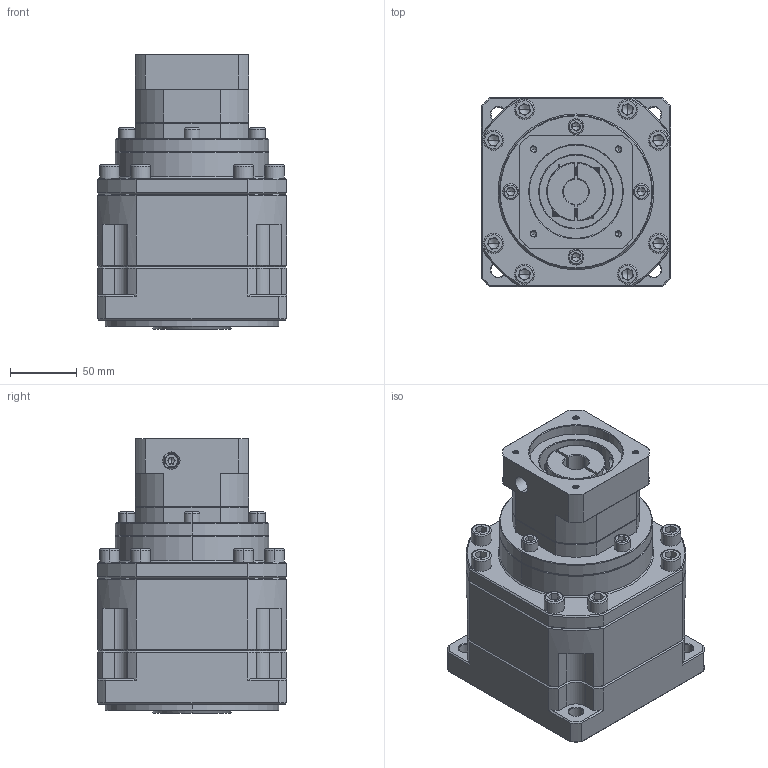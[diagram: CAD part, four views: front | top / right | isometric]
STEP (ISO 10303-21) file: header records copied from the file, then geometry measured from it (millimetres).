
FILE_DESCRIPTION (( 'STEP AP214' ), '1' );
FILE_NAME ('ZB142A-K35-L3-P2-19-70-90-M5.step', '2023-09-02T06:23:12', ( '' ), ( '' ), 'SwSTEP 2.0', 'SolidWorks 2016', '' );
FILE_SCHEMA (( 'AUTOMOTIVE_DESIGN' ));
Length unit declared in the file: millimetre
Products named in the file (1): ZB142A-K35-L3-P2-19-70-90-M5
Bounding box: 142 x 142 x 206.2 mm (x, y, z)
Volume: 2615482.9 mm3; surface area: 193159 mm2
Topology: 5 solids, 5 shells, 2451 faces, 6424 edges, 4090 vertices
Faces by surface type: plane 1219, bspline 449, cylinder 429, cone 354
Entity records: 127068 total; most frequent: CARTESIAN_POINT 43301, ORIENTED_EDGE 12744, DIRECTION 10190, EDGE_CURVE 6372, VECTOR 4140, LINE 4140, VERTEX_POINT 4090, AXIS2_PLACEMENT_3D 3025
